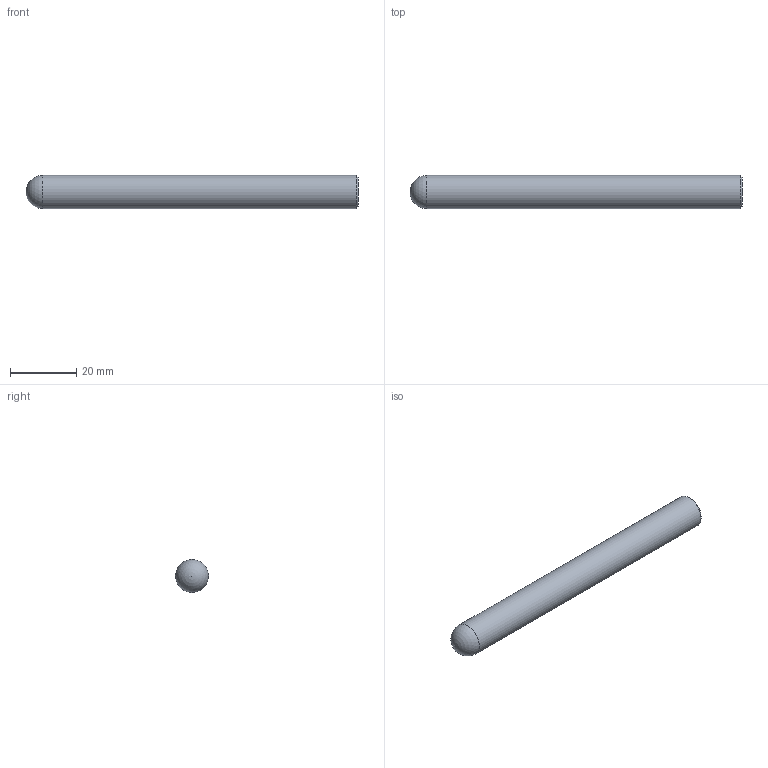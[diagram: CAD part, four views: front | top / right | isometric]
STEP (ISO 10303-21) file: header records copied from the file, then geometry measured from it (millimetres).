
FILE_DESCRIPTION(/* description */ (''),/* implementation_level */ '2;1');
FILE_NAME(/* name */ 'HSXB2100 10100.stp',/* time_stamp */ '2026-08-03T09:55:43+08:00',/* author */ (''),/* organization */ (''),/* preprocessor_version */ 'ST-DEVELOPER v16',/* originating_system */ 'SIEMENS PLM Software NX 10.0',/* authorisation */ '');
FILE_SCHEMA (('CONFIG_CONTROL_DESIGN'));
Length unit declared in the file: millimetre
Products named in the file (1): HSXB2100 10100_dxf
Bounding box: 100 x 10 x 10 mm (x, y, z)
Volume: 7719.3 mm3; surface area: 3210.6 mm2
Topology: 1 solids, 1 shells, 4 faces, 8 edges, 5 vertices
Faces by surface type: plane 1, sphere 1, cylinder 1, cone 1
Full cylindrical faces by diameter (mm): 10 x1
Entity records: 158 total; most frequent: DIRECTION 16, CARTESIAN_POINT 11, AXIS2_PLACEMENT_3D 8, PERSON_AND_ORGANIZATION 7, ORGANIZATION 7, EDGE_LOOP 6, ORIENTED_EDGE 6, DATE_AND_TIME 5
